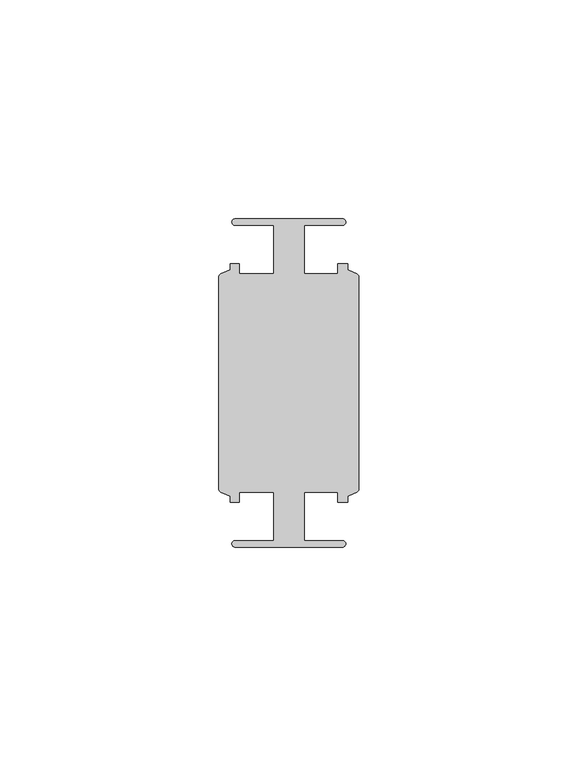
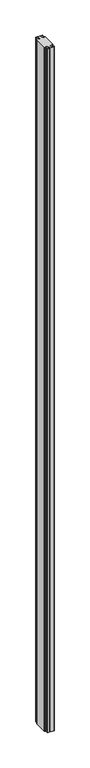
"""IFC4 building model written with IfcOpenShell, lengths in millimetres: member geometry, Прямоугольный импост : 4-AMG-2-Профиль 26Х75 Средний."""

import ifcopenshell
import ifcopenshell.guid

model = None  # the IFC model being written
_history = None  # IfcOwnerHistory: only IFC2X3 demands one
_inside = {}  # id of a spatial element -> (the spatial element, [elements in it])
_under = {}  # id of a project, library or spatial element -> (it, [spatial elements below it])
_declared = {}  # id of a project -> (the project, [libraries it declares])
_typed = {}  # id of a type object -> (the type object, [elements of that type])
_made_of = {}  # id of a material, layer set ... -> (it, [elements and type objects made of it])


def new_model(schema):
    """Start an empty IFC model of exactly this schema.

    Asked for "IFC4X3", IfcOpenShell would pick the latest addendum, in which some entities
    have other attributes; the version numbers below select the first issue.
    IFC2X3 requires an IfcOwnerHistory on every rooted entity: one is made here for all.
    """
    global model, _history
    if schema == "IFC4X3":
        model = ifcopenshell.file(schema_version=(4, 3, 0, 0))
    else:
        model = ifcopenshell.file(schema=schema)
    _inside.clear()
    _under.clear()
    _declared.clear()
    _typed.clear()
    _made_of.clear()
    _history = None
    if model.schema == "IFC2X3":
        org = make("IfcOrganization", Name="unknown")
        user = make(
            "IfcPersonAndOrganization",
            ThePerson=make("IfcPerson", FamilyName="unknown"),
            TheOrganization=org,
        )
        app = make(
            "IfcApplication",
            ApplicationDeveloper=org,
            Version="unknown",
            ApplicationFullName="unknown",
            ApplicationIdentifier="unknown",
        )
        _history = make(
            "IfcOwnerHistory",
            OwningUser=user,
            OwningApplication=app,
            ChangeAction="ADDED",
            CreationDate=0,
        )
    return model


def make(cls, **values):
    """One entity of the class cls with the attributes given. An attribute that is None is left unset."""
    return model.create_entity(
        cls, **{name: value for name, value in values.items() if value is not None}
    )


def rooted(cls, **values):
    """An entity with a GlobalId (a new one), such as an element, a storey or a relation."""
    return make(cls, GlobalId=ifcopenshell.guid.new(), OwnerHistory=_history, **values)


def si_unit(unit_type, name, prefix=None):
    """IfcSIUnit, for example si_unit("LENGTHUNIT", "METRE", prefix="MILLI")."""
    return make("IfcSIUnit", UnitType=unit_type, Prefix=prefix, Name=name)


def assignment(units):
    """IfcUnitAssignment: the units of a project."""
    return None if units is None else make("IfcUnitAssignment", Units=units)


def point(xyz):
    """IfcCartesianPoint."""
    return None if xyz is None else make("IfcCartesianPoint", Coordinates=xyz)


def direction(xyz):
    """IfcDirection."""
    return None if xyz is None else make("IfcDirection", DirectionRatios=xyz)


def frame(location, z_axis=None, x_axis=None):
    """IfcAxis2Placement3D, a coordinate frame: its origin and axes. An axis left out is left unset."""
    return make(
        "IfcAxis2Placement3D",
        Location=point(location),
        Axis=direction(z_axis),
        RefDirection=direction(x_axis),
    )


def frame_2d(location, x_axis=None):
    """IfcAxis2Placement2D, a coordinate frame in the plane: its origin and x axis."""
    return make(
        "IfcAxis2Placement2D", Location=point(location), RefDirection=direction(x_axis)
    )


def origin():
    """The frame at (0, 0, 0) with its axes left unset."""
    return frame((0.0, 0.0, 0.0))


def place(relative_to, where):
    """IfcLocalPlacement: puts the frame where relative to a parent placement (None: the world)."""
    return make(
        "IfcLocalPlacement", PlacementRelTo=relative_to, RelativePlacement=where
    )


def context(
    kind, dimensions, precision=None, world=None, true_north=None, identifier=None
):
    """IfcGeometricRepresentationContext, for example the 3D "Model" context."""
    return make(
        "IfcGeometricRepresentationContext",
        ContextIdentifier=identifier,
        ContextType=kind,
        CoordinateSpaceDimension=dimensions,
        Precision=precision,
        WorldCoordinateSystem=world,
        TrueNorth=true_north,
    )


def project(units=None, contexts=None):
    """IfcProject with its units and contexts."""
    return rooted(
        "IfcProject",
        Name="project",
        RepresentationContexts=contexts,
        UnitsInContext=assignment(units),
    )


def spatial(cls, under=None, at=None, **own):
    """A site, building, storey or space (cls), placed at a placement, below another one or the project."""
    s = rooted(cls, ObjectPlacement=at, **own)
    if under is not None:
        _under.setdefault(under.id(), (under, []))[1].append(s)
    return s


def polyline(points):
    """IfcPolyline through the points."""
    return make("IfcPolyline", Points=[point(p) for p in points])


def circle_curve(where, radius):
    """IfcCircle in the frame where."""
    return make("IfcCircle", Position=where, Radius=radius)


def trimmed(basis, trim1, trim2, sense, master):
    """IfcTrimmedCurve: the piece of a basis curve between two trims."""
    return make(
        "IfcTrimmedCurve",
        BasisCurve=basis,
        Trim1=trim1,
        Trim2=trim2,
        SenseAgreement=sense,
        MasterRepresentation=master,
    )


def segment(curve, same_sense, transition):
    """IfcCompositeCurveSegment."""
    return make(
        "IfcCompositeCurveSegment",
        Transition=transition,
        SameSense=same_sense,
        ParentCurve=curve,
    )


def composite_curve(segments, self_intersect=None):
    """IfcCompositeCurve: segments joined end to end."""
    return make("IfcCompositeCurve", Segments=segments, SelfIntersect=self_intersect)


def outline(outer, holes=None, kind="AREA"):
    """IfcArbitraryClosedProfileDef: a profile drawn as a closed curve; with holes, ...WithVoids."""
    if holes is None:
        return make("IfcArbitraryClosedProfileDef", ProfileType=kind, OuterCurve=outer)
    return make(
        "IfcArbitraryProfileDefWithVoids",
        ProfileType=kind,
        OuterCurve=outer,
        InnerCurves=holes,
    )


def extrude(swept, where, along, depth):
    """IfcExtrudedAreaSolid: the profile swept, set in the frame where, extruded along a direction by depth."""
    return make(
        "IfcExtrudedAreaSolid",
        SweptArea=swept,
        Position=where,
        ExtrudedDirection=direction(along),
        Depth=depth,
    )


def shape(context_of_items, identifier, shape_type, items):
    """IfcShapeRepresentation: the items that make up one representation, for example the "Body"."""
    return make(
        "IfcShapeRepresentation",
        ContextOfItems=context_of_items,
        RepresentationIdentifier=identifier,
        RepresentationType=shape_type,
        Items=items,
    )


def source(mapping_origin, context_of_items, identifier, shape_type, items):
    """IfcRepresentationMap: a shape defined once, which mapped items show again and again."""
    return make(
        "IfcRepresentationMap",
        MappingOrigin=mapping_origin,
        MappedRepresentation=shape(context_of_items, identifier, shape_type, items),
    )


def transform(
    local_origin,
    x_axis=None,
    y_axis=None,
    z_axis=None,
    scale=None,
    scale2=None,
    scale3=None,
    uniform=True,
):
    """IfcCartesianTransformationOperator3D, or its non-uniform kind. x_axis, y_axis, z_axis: its Axis1, 2, 3."""
    if uniform:
        return make(
            "IfcCartesianTransformationOperator3D",
            Axis1=direction(x_axis),
            Axis2=direction(y_axis),
            LocalOrigin=point(local_origin),
            Scale=scale,
            Axis3=direction(z_axis),
        )
    return make(
        "IfcCartesianTransformationOperator3DnonUniform",
        Axis1=direction(x_axis),
        Axis2=direction(y_axis),
        LocalOrigin=point(local_origin),
        Scale=scale,
        Axis3=direction(z_axis),
        Scale2=scale2,
        Scale3=scale3,
    )


def mapped(mapping_source, mapping_target):
    """IfcMappedItem: shows the shape of a source again, moved by a transform."""
    return make(
        "IfcMappedItem", MappingSource=mapping_source, MappingTarget=mapping_target
    )


def made_of(thing, what):
    """Note that an element or type object is made of a material, layer set ...; save() writes the relation."""
    if what is not None:
        _made_of.setdefault(what.id(), (what, []))[1].append(thing)
    return thing


def element(
    cls,
    number,
    at=None,
    inside=None,
    cuts=None,
    type_object=None,
    material=None,
    context=None,
    identifier="Body",
    shape_type=None,
    held_by="IfcProductDefinitionShape",
    body=None,
    shapes=None,
    **own,
):
    """One element of the class cls, such as IfcWall. Its Tag is "e" and its number.

    at: its placement. inside: the storey or other place that contains it. cuts: it is an
    opening in that element (IfcRelVoidsElement). A single representation is given by context,
    identifier, shape_type and body (its items); several are given by shapes. held_by: the class
    of the entity that holds the representations. save() writes the other relations.
    """
    e = rooted(cls, Tag="e%d" % number, ObjectPlacement=at, **own)
    if body is not None:
        shapes = [shape(context, identifier, shape_type, body)]
    if shapes is not None:
        e.Representation = make(held_by, Representations=shapes)
    if inside is not None:
        _inside.setdefault(inside.id(), (inside, []))[1].append(e)
    if cuts is not None:
        rooted(
            "IfcRelVoidsElement", RelatingBuildingElement=cuts, RelatedOpeningElement=e
        )
    if type_object is not None:
        _typed.setdefault(type_object.id(), (type_object, []))[1].append(e)
    return made_of(e, material)


def aggregate(whole, parts):
    """IfcRelAggregates: a whole, such as a stair, and the parts it consists of."""
    return rooted("IfcRelAggregates", RelatingObject=whole, RelatedObjects=parts)


def save(model, path):
    """Write the relations noted so far, then the file.

    IfcRelAggregates (storeys below a building ...), IfcRelContainedInSpatialStructure (elements
    in a storey), IfcRelDefinesByType, IfcRelAssociatesMaterial and IfcRelDeclares: one each for
    every whole, place, type object, material and project.
    """
    for whole, parts in _under.values():
        aggregate(whole, parts)
    for where, things in _inside.values():
        rooted(
            "IfcRelContainedInSpatialStructure",
            RelatedElements=things,
            RelatingStructure=where,
        )
    for kind, things in _typed.values():
        rooted("IfcRelDefinesByType", RelatedObjects=things, RelatingType=kind)
    for what, things in _made_of.values():
        rooted("IfcRelAssociatesMaterial", RelatedObjects=things, RelatingMaterial=what)
    for by, libraries in _declared.values():
        rooted("IfcRelDeclares", RelatingContext=by, RelatedDefinitions=libraries)
    model.write(path)


def member_f1666801(model_context):
    return source(origin(), model_context, "Body", "SweptSolid", [
        extrude(outline(composite_curve([segment(trimmed(circle_curve(frame_2d((12.2876562, 36.75)), 0.75), [point((12.2876562, 37.5))], [point((12.2876562, 36.0))], False, "CARTESIAN"), True, "CONTINUOUS"), segment(polyline([(12.2876562, 36.0), (3.5376562, 36.0), (3.5376562, 25.0), (11.2593767, 25.0), (11.2593767, 27.25), (13.4846403, 27.25), (13.4846403, 25.836597), (15.5572539, 24.9333875)]), True, "CONTINUOUS"), segment(trimmed(circle_curve(frame_2d((15.2376562, 24.2)), 0.8), [point((15.5572539, 24.9333875))], [point((16.0376562, 24.2))], False, "CARTESIAN"), True, "CONTINUOUS"), segment(polyline([(16.0376562, 24.2), (16.0376562, -24.2)]), True, "CONTINUOUS"), segment(trimmed(circle_curve(frame_2d((15.2376562, -24.2)), 0.8), [point((16.0376562, -24.2))], [point((15.5572539, -24.9333875))], False, "CARTESIAN"), True, "CONTINUOUS"), segment(polyline([(15.5572539, -24.9333875), (13.4846403, -25.836597), (13.4846403, -27.25), (11.2593767, -27.25), (11.2593767, -24.9914758), (3.5376562, -24.9914758), (3.5376562, -36.0), (12.2876562, -36.0)]), True, "CONTINUOUS"), segment(trimmed(circle_curve(frame_2d((12.2876562, -36.75)), 0.75), [point((12.2876562, -36.0))], [point((12.2876562, -37.5))], False, "CARTESIAN"), True, "CONTINUOUS"), segment(polyline([(12.2876562, -37.5), (-12.2123438, -37.5)]), True, "CONTINUOUS"), segment(trimmed(circle_curve(frame_2d((-12.2123438, -36.75)), 0.75), [point((-12.2123438, -37.5))], [point((-12.2123438, -36.0))], False, "CARTESIAN"), True, "CONTINUOUS"), segment(polyline([(-12.2123438, -36.0), (-3.4623438, -36.0), (-3.4623438, -24.9913353), (-11.2593767, -24.9913353), (-11.2593767, -27.25), (-13.4093278, -27.25), (-13.4093278, -25.836597), (-15.4819415, -24.9333875)]), True, "CONTINUOUS"), segment(trimmed(circle_curve(frame_2d((-15.1623438, -24.2)), 0.8), [point((-15.4819415, -24.9333875))], [point((-15.9623438, -24.2))], False, "CARTESIAN"), True, "CONTINUOUS"), segment(polyline([(-15.9623438, -24.2), (-15.9623438, 24.2)]), True, "CONTINUOUS"), segment(trimmed(circle_curve(frame_2d((-15.1623438, 24.2)), 0.8), [point((-15.9623438, 24.2))], [point((-15.4819415, 24.9333875))], False, "CARTESIAN"), True, "CONTINUOUS"), segment(polyline([(-15.4819415, 24.9333875), (-13.4093278, 25.836597), (-13.4093278, 27.25), (-11.2593767, 27.25), (-11.2593767, 25.0), (-3.4623438, 25.0), (-3.4623438, 36.0), (-12.2123438, 36.0)]), True, "CONTINUOUS"), segment(trimmed(circle_curve(frame_2d((-12.2123438, 36.75)), 0.75), [point((-12.2123438, 36.0))], [point((-12.2123438, 37.5))], False, "CARTESIAN"), True, "CONTINUOUS"), segment(polyline([(-12.2123438, 37.5), (12.2876562, 37.5)]), True, "CONTINUOUS")], self_intersect=False)), frame((0.0, 0.0, -2717.8), z_axis=(0.0, 0.0, 1.0), x_axis=(1.0, 0.0, 0.0)), (0.0, 0.0, 1.0), 2717.8),
    ])


if __name__ == "__main__":
    model = new_model("IFC4")
    model_context = context("Model", 3, world=origin())
    ifc_project = project(units=[si_unit("LENGTHUNIT", "METRE", prefix="MILLI")], contexts=[model_context])
    site = spatial("IfcSite", under=ifc_project)
    building = spatial("IfcBuilding", under=site)
    placement = place(None, origin())
    member_shape = member_f1666801(model_context)
    element("IfcMember", 1, ObjectType="Прямоугольный импост : 4-AMG-2-Профиль 26Х75 Средний", at=placement, inside=building, context=model_context, shape_type="MappedRepresentation", body=[
        mapped(member_shape, transform((0.0, 0.0, 0.0), x_axis=(1.0, 0.0, 0.0), y_axis=(0.0, 1.0, 0.0), z_axis=(0.0, 0.0, 1.0))),
    ])
    save(model, "model.ifc")
